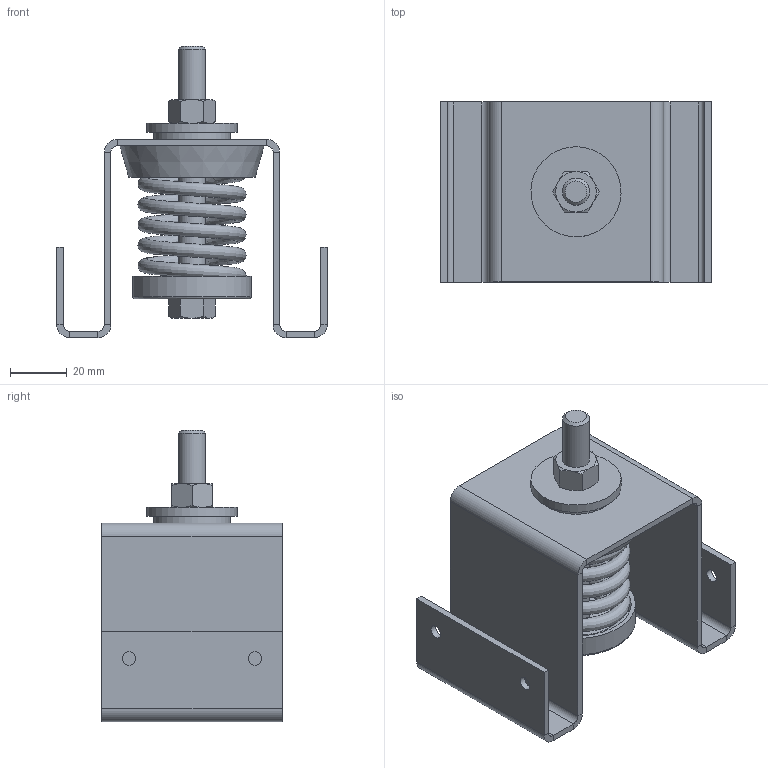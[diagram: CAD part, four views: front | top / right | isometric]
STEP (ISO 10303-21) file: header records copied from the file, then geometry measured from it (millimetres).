
FILE_DESCRIPTION(/* description */ (''),/* implementation_level */ '2;1');
FILE_NAME(/* name */ 'C:\001_Work\Designs\HANGER BOXES\ARCHITECTURAL CEILING HANGERS\30CSCH-X\30CSCH-X.stp',/* time_stamp */ '2016-01-28T09:46:55-05:00',/* author */ ('rramoutar'),/* organization */ ('Mason Industries Inc.'),/* preprocessor_version */ 'ST-DEVELOPER v15.6',/* originating_system */ 'Autodesk Inventor 2015',/* authorisation */ '');
FILE_SCHEMA (('CONFIG_CONTROL_DESIGN'));
Length unit declared in the file: inch
Products named in the file (1): 30CSCH-X-210
Bounding box: 95.24 x 63.5 x 102.58 mm (x, y, z)
Volume: 78327.6 mm3; surface area: 65521.7 mm2
Topology: 8 solids, 8 shells, 136 faces, 275 edges, 160 vertices
Faces by surface type: plane 81, cylinder 31, cone 22, torus 1, bspline 1
Full cylindrical faces by diameter (mm): 4.762 x4, 7.798 x1, 9.525 x2, 10.319 x1, 14.275 x1, 20.637 x1, 25.4 x1, 26.987 x2, 31.75 x1, 38.1 x1, 38.894 x1, 39.687 x1, 39.688 x1, 41.906 x1
Entity records: 4782 total; most frequent: CARTESIAN_POINT 1930, DIRECTION 568, ORIENTED_EDGE 486, EDGE_CURVE 243, AXIS2_PLACEMENT_3D 229, EDGE_LOOP 185, VERTEX_POINT 152, STYLED_ITEM 144
